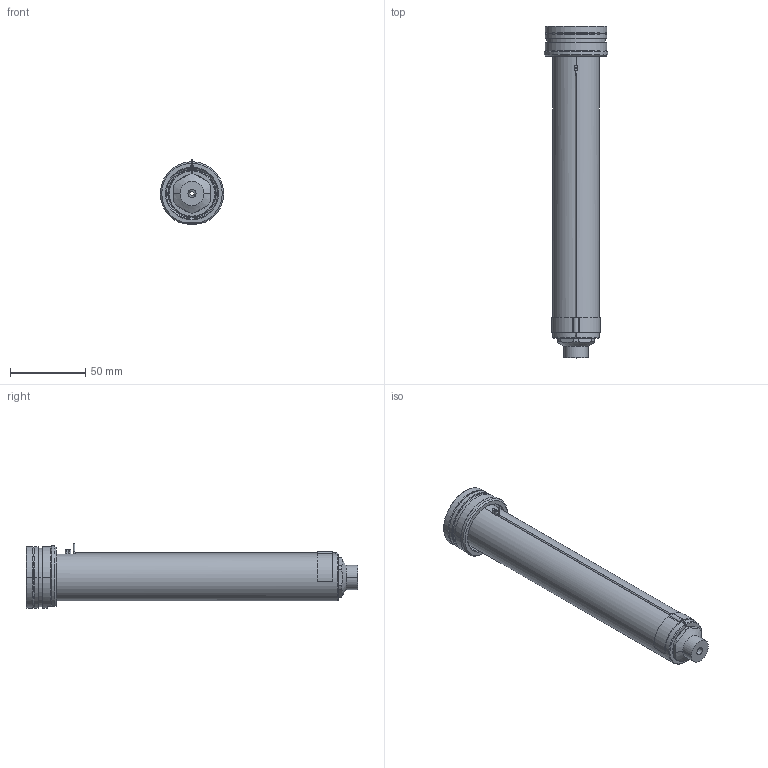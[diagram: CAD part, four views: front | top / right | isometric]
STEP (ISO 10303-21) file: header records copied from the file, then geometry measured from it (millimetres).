
FILE_DESCRIPTION((''),'2;1');
FILE_NAME('EO12_SG_SG_200_SW','2024-02-19T12:29:19',('sundharh'),(''),'CREO PARAMETRIC BY PTC INC, 2023154','CREO PARAMETRIC BY PTC INC, 2023154','');
FILE_SCHEMA(('CONFIG_CONTROL_DESIGN'));
Length unit declared in the file: millimetre
Products named in the file (1): EO12_SG_SG_200_SW
Bounding box: 41.85 x 220 x 43 mm (x, y, z)
Volume: 145373.8 mm3; surface area: 36715.4 mm2
Topology: 2 solids, 3 shells, 176 faces, 438 edges, 266 vertices
Faces by surface type: cylinder 65, plane 45, cone 33, torus 27, sphere 3, bspline 3
Entity records: 5955 total; most frequent: CARTESIAN_POINT 1675, DIRECTION 948, ORIENTED_EDGE 864, EDGE_CURVE 432, AXIS2_PLACEMENT_3D 396, VERTEX_POINT 266, CIRCLE 223, EDGE_LOOP 192
